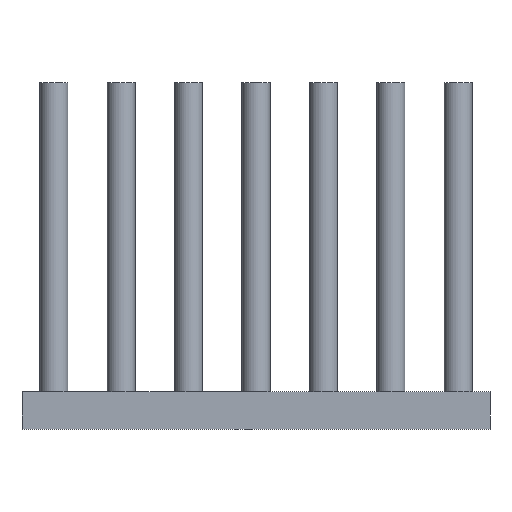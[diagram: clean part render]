
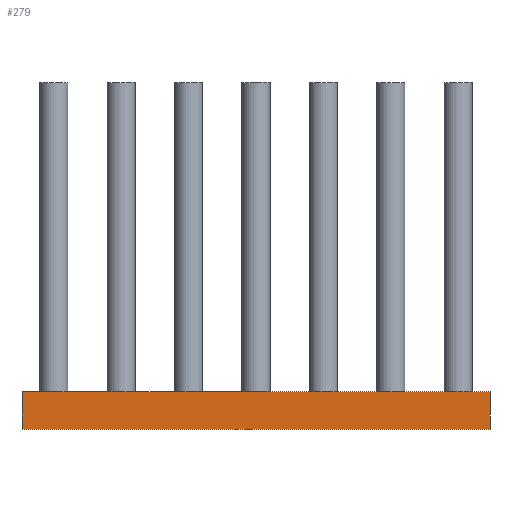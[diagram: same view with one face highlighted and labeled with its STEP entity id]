
A CAD part, left-side view. The second image highlights one B-rep face of the part: STEP entity #279.
In plain terms, the highlighted planar face has unit normal (-1, 0, 0).
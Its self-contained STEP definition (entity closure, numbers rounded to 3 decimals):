
#97=PLANE('',#1415);
#152=FACE_OUTER_BOUND('',#629,.T.);
#210=LINE('',#2145,#222);
#211=LINE('',#2147,#223);
#212=LINE('',#2149,#224);
#213=LINE('',#2151,#225);
#222=VECTOR('',#1772,1.);
#223=VECTOR('',#1775,1.);
#224=VECTOR('',#1776,1.);
#225=VECTOR('',#1777,1.);
#279=ADVANCED_FACE('',(#152),#97,.T.);
#629=EDGE_LOOP('',(#837,#838,#839,#840));
#837=ORIENTED_EDGE('',*,*,#1162,.F.);
#838=ORIENTED_EDGE('',*,*,#1161,.F.);
#839=ORIENTED_EDGE('',*,*,#1163,.T.);
#840=ORIENTED_EDGE('',*,*,#1164,.T.);
#1053=VERTEX_POINT('',#2142);
#1054=VERTEX_POINT('',#2144);
#1055=VERTEX_POINT('',#2148);
#1056=VERTEX_POINT('',#2150);
#1161=EDGE_CURVE('',#1054,#1053,#210,.T.);
#1162=EDGE_CURVE('',#1053,#1055,#211,.T.);
#1163=EDGE_CURVE('',#1054,#1056,#212,.T.);
#1164=EDGE_CURVE('',#1056,#1055,#213,.T.);
#1415=AXIS2_PLACEMENT_3D('',#2152,#1778,#1779);
#1772=DIRECTION('',(0.,0.,1.));
#1775=DIRECTION('',(0.,-1.,0.));
#1776=DIRECTION('',(0.,-1.,0.));
#1777=DIRECTION('',(0.,0.,1.));
#1778=DIRECTION('',(-1.,0.,0.));
#1779=DIRECTION('',(0.,-1.,0.));
#2142=CARTESIAN_POINT('',(-1.7,23.3,0.));
#2144=CARTESIAN_POINT('',(-1.7,23.3,-2.));
#2145=CARTESIAN_POINT('',(-1.7,23.3,-2.));
#2147=CARTESIAN_POINT('',(-1.7,23.3,0.));
#2148=CARTESIAN_POINT('',(-1.7,-1.7,0.));
#2149=CARTESIAN_POINT('',(-1.7,23.3,-2.));
#2150=CARTESIAN_POINT('',(-1.7,-1.7,-2.));
#2151=CARTESIAN_POINT('',(-1.7,-1.7,-2.));
#2152=CARTESIAN_POINT('',(-1.7,23.3,-2.));
